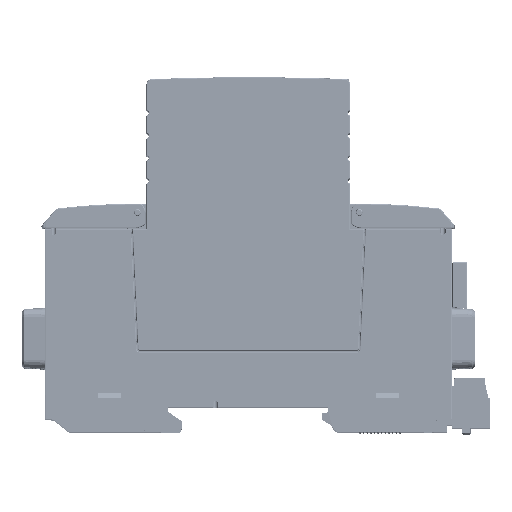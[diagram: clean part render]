
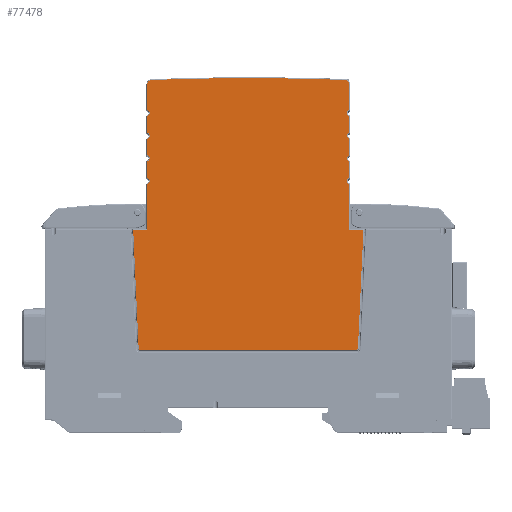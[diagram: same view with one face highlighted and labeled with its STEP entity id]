
A CAD part, top view. The second image highlights one B-rep face of the part: STEP entity #77478.
In plain terms, the highlighted planar face has unit normal (0, 0, 1) as drawn and (0, 0, -1) by its records, which use the part's own axes.
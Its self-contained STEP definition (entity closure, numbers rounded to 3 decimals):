
#1985=CIRCLE('',#81735,0.3);
#1988=CIRCLE('',#81740,0.3);
#2111=CIRCLE('',#82212,0.7);
#2122=CIRCLE('',#82232,0.7);
#2133=CIRCLE('',#82252,0.7);
#2144=CIRCLE('',#82272,0.7);
#2154=CIRCLE('',#82289,1.);
#2156=CIRCLE('',#82292,599.8);
#2157=CIRCLE('',#82294,1.);
#2164=CIRCLE('',#82307,0.7);
#2175=CIRCLE('',#82327,0.7);
#2187=CIRCLE('',#82348,0.7);
#2195=CIRCLE('',#82369,0.7);
#6269=ORIENTED_EDGE('',*,*,#28404,.T.);
#6270=ORIENTED_EDGE('',*,*,#28391,.T.);
#6271=ORIENTED_EDGE('',*,*,#28384,.T.);
#6272=ORIENTED_EDGE('',*,*,#28370,.T.);
#6273=ORIENTED_EDGE('',*,*,#28366,.T.);
#6274=ORIENTED_EDGE('',*,*,#28354,.T.);
#6275=ORIENTED_EDGE('',*,*,#28350,.T.);
#6276=ORIENTED_EDGE('',*,*,#27198,.T.);
#6277=ORIENTED_EDGE('',*,*,#28341,.T.);
#6278=ORIENTED_EDGE('',*,*,#28340,.T.);
#6279=ORIENTED_EDGE('',*,*,#28338,.T.);
#6280=ORIENTED_EDGE('',*,*,#28409,.T.);
#6281=ORIENTED_EDGE('',*,*,#28325,.T.);
#6282=ORIENTED_EDGE('',*,*,#28313,.T.);
#6283=ORIENTED_EDGE('',*,*,#28309,.T.);
#6284=ORIENTED_EDGE('',*,*,#28297,.T.);
#6285=ORIENTED_EDGE('',*,*,#28293,.T.);
#6286=ORIENTED_EDGE('',*,*,#28281,.T.);
#6287=ORIENTED_EDGE('',*,*,#28277,.T.);
#6288=ORIENTED_EDGE('',*,*,#27448,.T.);
#6289=ORIENTED_EDGE('',*,*,#27456,.T.);
#6290=ORIENTED_EDGE('',*,*,#27446,.T.);
#6291=ORIENTED_EDGE('',*,*,#27443,.T.);
#6292=ORIENTED_EDGE('',*,*,#27441,.T.);
#6293=ORIENTED_EDGE('',*,*,#27438,.T.);
#6294=ORIENTED_EDGE('',*,*,#27435,.T.);
#6295=ORIENTED_EDGE('',*,*,#27423,.T.);
#6296=ORIENTED_EDGE('',*,*,#28408,.T.);
#27198=EDGE_CURVE('',#38780,#38782,#46221,.T.);
#27423=EDGE_CURVE('',#38962,#38960,#46341,.T.);
#27435=EDGE_CURVE('',#38968,#38962,#46348,.T.);
#27438=EDGE_CURVE('',#38970,#38968,#1985,.T.);
#27441=EDGE_CURVE('',#38972,#38970,#46350,.T.);
#27443=EDGE_CURVE('',#38973,#38972,#1988,.T.);
#27446=EDGE_CURVE('',#38974,#38973,#46352,.T.);
#27448=EDGE_CURVE('',#38978,#38976,#46353,.T.);
#27456=EDGE_CURVE('',#38976,#38974,#46359,.T.);
#28277=EDGE_CURVE('',#39466,#38978,#2111,.T.);
#28281=EDGE_CURVE('',#39467,#39466,#46960,.T.);
#28293=EDGE_CURVE('',#39472,#39467,#2122,.T.);
#28297=EDGE_CURVE('',#39473,#39472,#46965,.T.);
#28309=EDGE_CURVE('',#39478,#39473,#2133,.T.);
#28313=EDGE_CURVE('',#39479,#39478,#46970,.T.);
#28325=EDGE_CURVE('',#39484,#39479,#2144,.T.);
#28338=EDGE_CURVE('',#39489,#39490,#2154,.T.);
#28340=EDGE_CURVE('',#39491,#39489,#2156,.T.);
#28341=EDGE_CURVE('',#38782,#39491,#2157,.T.);
#28350=EDGE_CURVE('',#39493,#38780,#2164,.T.);
#28354=EDGE_CURVE('',#39494,#39493,#46980,.T.);
#28366=EDGE_CURVE('',#39499,#39494,#2175,.T.);
#28370=EDGE_CURVE('',#39500,#39499,#46985,.T.);
#28384=EDGE_CURVE('',#39506,#39500,#2187,.T.);
#28391=EDGE_CURVE('',#39509,#39506,#46993,.T.);
#28404=EDGE_CURVE('',#39514,#39509,#2195,.T.);
#28408=EDGE_CURVE('',#38960,#39514,#47002,.T.);
#28409=EDGE_CURVE('',#39490,#39484,#47003,.T.);
#38780=VERTEX_POINT('',#110012);
#38782=VERTEX_POINT('',#110016);
#38960=VERTEX_POINT('',#110633);
#38962=VERTEX_POINT('',#110636);
#38968=VERTEX_POINT('',#110656);
#38970=VERTEX_POINT('',#110662);
#38972=VERTEX_POINT('',#110668);
#38973=VERTEX_POINT('',#110673);
#38974=VERTEX_POINT('',#110677);
#38976=VERTEX_POINT('',#110683);
#38978=VERTEX_POINT('',#110686);
#39466=VERTEX_POINT('',#112766);
#39467=VERTEX_POINT('',#112770);
#39472=VERTEX_POINT('',#112797);
#39473=VERTEX_POINT('',#112801);
#39478=VERTEX_POINT('',#112828);
#39479=VERTEX_POINT('',#112832);
#39484=VERTEX_POINT('',#112859);
#39489=VERTEX_POINT('',#112883);
#39490=VERTEX_POINT('',#112885);
#39491=VERTEX_POINT('',#112889);
#39493=VERTEX_POINT('',#112908);
#39494=VERTEX_POINT('',#112912);
#39499=VERTEX_POINT('',#112939);
#39500=VERTEX_POINT('',#112943);
#39506=VERTEX_POINT('',#112972);
#39509=VERTEX_POINT('',#112986);
#39514=VERTEX_POINT('',#113012);
#46221=LINE('',#110017,#55592);
#46341=LINE('',#110635,#55712);
#46348=LINE('',#110659,#55719);
#46350=LINE('',#110670,#55721);
#46352=LINE('',#110680,#55723);
#46353=LINE('',#110685,#55724);
#46359=LINE('',#110700,#55730);
#46960=LINE('',#112775,#56331);
#46965=LINE('',#112806,#56336);
#46970=LINE('',#112837,#56341);
#46980=LINE('',#112917,#56351);
#46985=LINE('',#112948,#56356);
#46993=LINE('',#112989,#56364);
#47002=LINE('',#113023,#56373);
#47003=LINE('',#113025,#56374);
#55592=VECTOR('',#87926,1000.);
#55712=VECTOR('',#88342,1000.);
#55719=VECTOR('',#88367,1000.);
#55721=VECTOR('',#88381,1000.);
#55723=VECTOR('',#88393,1000.);
#55724=VECTOR('',#88398,1000.);
#55730=VECTOR('',#88412,1000.);
#56331=VECTOR('',#89947,1000.);
#56336=VECTOR('',#89992,1000.);
#56341=VECTOR('',#90037,1000.);
#56351=VECTOR('',#90157,1000.);
#56356=VECTOR('',#90202,1000.);
#56364=VECTOR('',#90260,1000.);
#56373=VECTOR('',#90309,1000.);
#56374=VECTOR('',#90312,1000.);
#65365=EDGE_LOOP('',(#6269,#6270,#6271,#6272,#6273,#6274,#6275,#6276,#6277,
#6278,#6279,#6280,#6281,#6282,#6283,#6284,#6285,#6286,#6287,#6288,#6289,
#6290,#6291,#6292,#6293,#6294,#6295,#6296));
#69865=FACE_BOUND('',#65365,.T.);
#74108=PLANE('',#82376);
#77478=ADVANCED_FACE('',(#69865),#74108,.F.);
#81735=AXIS2_PLACEMENT_3D('',#110665,#88374,#88375);
#81740=AXIS2_PLACEMENT_3D('',#110674,#88386,#88387);
#82212=AXIS2_PLACEMENT_3D('',#112767,#89938,#89939);
#82232=AXIS2_PLACEMENT_3D('',#112798,#89983,#89984);
#82252=AXIS2_PLACEMENT_3D('',#112829,#90028,#90029);
#82272=AXIS2_PLACEMENT_3D('',#112860,#90073,#90074);
#82289=AXIS2_PLACEMENT_3D('',#112886,#90110,#90111);
#82292=AXIS2_PLACEMENT_3D('',#112890,#90116,#90117);
#82294=AXIS2_PLACEMENT_3D('',#112892,#90120,#90121);
#82307=AXIS2_PLACEMENT_3D('',#112909,#90148,#90149);
#82327=AXIS2_PLACEMENT_3D('',#112940,#90193,#90194);
#82348=AXIS2_PLACEMENT_3D('',#112975,#90241,#90242);
#82369=AXIS2_PLACEMENT_3D('',#113015,#90294,#90295);
#82376=AXIS2_PLACEMENT_3D('',#113024,#90310,#90311);
#87926=DIRECTION('',(0.,1.,0.));
#88342=DIRECTION('',(1.,0.,0.));
#88367=DIRECTION('',(-0.046,0.999,0.));
#88374=DIRECTION('',(0.,0.,-1.));
#88375=DIRECTION('',(0.,-1.,0.));
#88381=DIRECTION('',(-1.,0.,0.));
#88386=DIRECTION('',(0.,0.,-1.));
#88387=DIRECTION('',(0.999,-0.046,0.));
#88393=DIRECTION('',(-0.046,-0.999,0.));
#88398=DIRECTION('',(0.,-1.,0.));
#88412=DIRECTION('',(1.,0.,0.));
#89938=DIRECTION('',(0.,0.,1.));
#89939=DIRECTION('',(-0.286,0.958,0.));
#89947=DIRECTION('',(0.,-1.,0.));
#89983=DIRECTION('',(0.,0.,1.));
#89984=DIRECTION('',(-0.286,0.958,0.));
#89992=DIRECTION('',(0.,-1.,0.));
#90028=DIRECTION('',(0.,0.,1.));
#90029=DIRECTION('',(-0.286,0.958,0.));
#90037=DIRECTION('',(0.,-1.,0.));
#90073=DIRECTION('',(0.,0.,1.));
#90074=DIRECTION('',(-0.286,0.958,0.));
#90110=DIRECTION('',(0.,0.,-1.));
#90111=DIRECTION('',(0.036,0.999,0.));
#90116=DIRECTION('',(0.,0.,-1.));
#90117=DIRECTION('',(-0.036,0.999,0.));
#90120=DIRECTION('',(0.,0.,-1.));
#90121=DIRECTION('',(-1.,0.,0.));
#90148=DIRECTION('',(0.,0.,1.));
#90149=DIRECTION('',(0.286,-0.958,0.));
#90157=DIRECTION('',(0.,1.,0.));
#90193=DIRECTION('',(0.,0.,1.));
#90194=DIRECTION('',(0.286,-0.958,0.));
#90202=DIRECTION('',(0.,1.,0.));
#90241=DIRECTION('',(0.,0.,1.));
#90242=DIRECTION('',(0.286,-0.958,0.));
#90260=DIRECTION('',(0.,1.,0.));
#90294=DIRECTION('',(0.,0.,1.));
#90295=DIRECTION('',(0.286,-0.958,0.));
#90309=DIRECTION('',(0.,1.,0.));
#90310=DIRECTION('',(0.,0.,1.));
#90311=DIRECTION('',(1.,0.,0.));
#90312=DIRECTION('',(0.,-1.,0.));
#110012=CARTESIAN_POINT('',(-22.3,52.171,-26.9));
#110016=CARTESIAN_POINT('',(-22.3,57.843,-26.9));
#110017=CARTESIAN_POINT('',(-22.3,52.171,-26.9));
#110633=CARTESIAN_POINT('',(-22.3,25.72,-26.9));
#110635=CARTESIAN_POINT('',(-25.433,25.72,-26.9));
#110636=CARTESIAN_POINT('',(-25.433,25.72,-26.9));
#110656=CARTESIAN_POINT('',(-24.222,-0.514,-26.9));
#110659=CARTESIAN_POINT('',(-24.222,-0.514,-26.9));
#110662=CARTESIAN_POINT('',(-23.923,-0.8,-26.9));
#110665=CARTESIAN_POINT('',(-23.923,-0.5,-26.9));
#110668=CARTESIAN_POINT('',(23.923,-0.8,-26.9));
#110670=CARTESIAN_POINT('',(23.923,-0.8,-26.9));
#110673=CARTESIAN_POINT('',(24.222,-0.514,-26.9));
#110674=CARTESIAN_POINT('',(23.923,-0.5,-26.9));
#110677=CARTESIAN_POINT('',(25.433,25.72,-26.9));
#110680=CARTESIAN_POINT('',(25.433,25.72,-26.9));
#110683=CARTESIAN_POINT('',(22.3,25.72,-26.9));
#110685=CARTESIAN_POINT('',(22.3,35.829,-26.9));
#110686=CARTESIAN_POINT('',(22.3,35.829,-26.9));
#110700=CARTESIAN_POINT('',(22.3,25.72,-26.9));
#112766=CARTESIAN_POINT('',(22.3,37.171,-26.9));
#112767=CARTESIAN_POINT('',(22.5,36.5,-26.9));
#112770=CARTESIAN_POINT('',(22.3,40.829,-26.9));
#112775=CARTESIAN_POINT('',(22.3,40.829,-26.9));
#112797=CARTESIAN_POINT('',(22.3,42.171,-26.9));
#112798=CARTESIAN_POINT('',(22.5,41.5,-26.9));
#112801=CARTESIAN_POINT('',(22.3,45.829,-26.9));
#112806=CARTESIAN_POINT('',(22.3,45.829,-26.9));
#112828=CARTESIAN_POINT('',(22.3,47.171,-26.9));
#112829=CARTESIAN_POINT('',(22.5,46.5,-26.9));
#112832=CARTESIAN_POINT('',(22.3,50.829,-26.9));
#112837=CARTESIAN_POINT('',(22.3,50.829,-26.9));
#112859=CARTESIAN_POINT('',(22.3,52.171,-26.9));
#112860=CARTESIAN_POINT('',(22.5,51.5,-26.9));
#112883=CARTESIAN_POINT('',(21.336,58.842,-26.9));
#112885=CARTESIAN_POINT('',(22.3,57.843,-26.9));
#112886=CARTESIAN_POINT('',(21.3,57.843,-26.9));
#112889=CARTESIAN_POINT('',(-21.336,58.842,-26.9));
#112890=CARTESIAN_POINT('',(0.,-540.578,-26.9));
#112892=CARTESIAN_POINT('',(-21.3,57.843,-26.9));
#112908=CARTESIAN_POINT('',(-22.3,50.829,-26.9));
#112909=CARTESIAN_POINT('',(-22.5,51.5,-26.9));
#112912=CARTESIAN_POINT('',(-22.3,47.171,-26.9));
#112917=CARTESIAN_POINT('',(-22.3,47.171,-26.9));
#112939=CARTESIAN_POINT('',(-22.3,45.829,-26.9));
#112940=CARTESIAN_POINT('',(-22.5,46.5,-26.9));
#112943=CARTESIAN_POINT('',(-22.3,42.171,-26.9));
#112948=CARTESIAN_POINT('',(-22.3,42.171,-26.9));
#112972=CARTESIAN_POINT('',(-22.3,40.829,-26.9));
#112975=CARTESIAN_POINT('',(-22.5,41.5,-26.9));
#112986=CARTESIAN_POINT('',(-22.3,37.171,-26.9));
#112989=CARTESIAN_POINT('',(-22.3,37.171,-26.9));
#113012=CARTESIAN_POINT('',(-22.3,35.829,-26.9));
#113015=CARTESIAN_POINT('',(-22.5,36.5,-26.9));
#113023=CARTESIAN_POINT('',(-22.3,25.72,-26.9));
#113024=CARTESIAN_POINT('',(0.,0.,-26.9));
#113025=CARTESIAN_POINT('',(22.3,57.843,-26.9));
